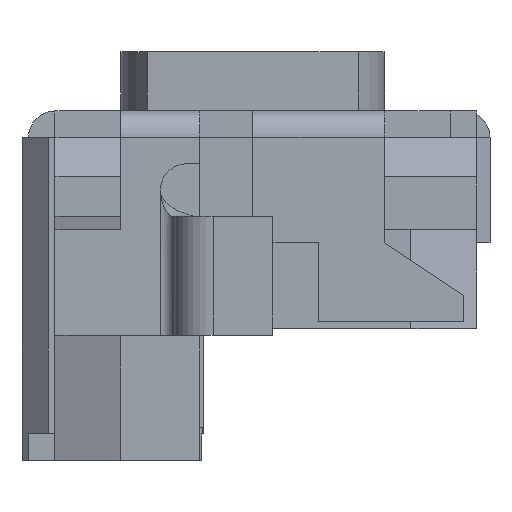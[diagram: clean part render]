
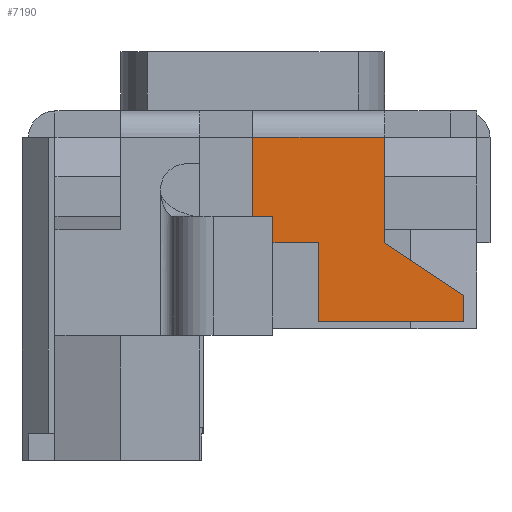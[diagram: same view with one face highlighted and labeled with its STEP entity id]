
A CAD part, left-side view. The second image highlights one B-rep face of the part: STEP entity #7190.
In plain terms, the highlighted planar face has unit normal (-1, 0, 0).
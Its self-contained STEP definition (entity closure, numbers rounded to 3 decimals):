
#4930=DIRECTION('',(0.,1.,0.));
#4931=VECTOR('',#4930,1.);
#4932=CARTESIAN_POINT('',(-2.4,-1.,-0.02));
#4933=LINE('',#4932,#4931);
#4948=DIRECTION('',(0.,0.,-1.));
#4949=VECTOR('',#4948,0.8);
#4950=CARTESIAN_POINT('',(-2.4,0.,-0.02));
#4951=LINE('',#4950,#4949);
#4952=DIRECTION('',(0.,0.,1.));
#4953=VECTOR('',#4952,0.8);
#4954=CARTESIAN_POINT('',(-2.4,-1.,-0.82));
#4955=LINE('',#4954,#4953);
#4956=DIRECTION('',(0.,0.832,0.555));
#4957=VECTOR('',#4956,0.721);
#4958=CARTESIAN_POINT('',(-2.4,-1.6,-1.22));
#4959=LINE('',#4958,#4957);
#4960=DIRECTION('',(0.,0.,1.));
#4961=VECTOR('',#4960,0.2);
#4962=CARTESIAN_POINT('',(-2.4,-1.6,-1.42));
#4963=LINE('',#4962,#4961);
#4964=DIRECTION('',(0.,-1.,0.));
#4965=VECTOR('',#4964,1.1);
#4966=CARTESIAN_POINT('',(-2.4,-0.5,-1.42));
#4967=LINE('',#4966,#4965);
#4968=DIRECTION('',(0.,0.,-1.));
#4969=VECTOR('',#4968,0.6);
#4970=CARTESIAN_POINT('',(-2.4,-0.5,-0.82));
#4971=LINE('',#4970,#4969);
#4972=DIRECTION('',(0.,-1.,0.));
#4973=VECTOR('',#4972,0.5);
#4974=CARTESIAN_POINT('',(-2.4,0.,-0.82));
#4975=LINE('',#4974,#4973);
#5500=CARTESIAN_POINT('',(-2.4,0.,-0.02));
#5501=CARTESIAN_POINT('',(-2.4,0.,-0.82));
#5502=VERTEX_POINT('',#5500);
#5503=VERTEX_POINT('',#5501);
#5504=CARTESIAN_POINT('',(-2.4,-0.5,-0.82));
#5505=VERTEX_POINT('',#5504);
#5506=CARTESIAN_POINT('',(-2.4,-1.,-0.82));
#5507=CARTESIAN_POINT('',(-2.4,-1.,-0.02));
#5508=VERTEX_POINT('',#5506);
#5509=VERTEX_POINT('',#5507);
#5516=CARTESIAN_POINT('',(-2.4,-0.5,-1.42));
#5517=VERTEX_POINT('',#5516);
#5518=CARTESIAN_POINT('',(-2.4,-1.6,-1.42));
#5519=VERTEX_POINT('',#5518);
#5520=CARTESIAN_POINT('',(-2.4,-1.6,-1.22));
#5521=VERTEX_POINT('',#5520);
#7168=CARTESIAN_POINT('',(-2.4,-0.238,0.18));
#7169=DIRECTION('',(-1.,0.,0.));
#7170=DIRECTION('',(0.,1.,0.));
#7171=AXIS2_PLACEMENT_3D('',#7168,#7169,#7170);
#7172=PLANE('',#7171);
#7174=ORIENTED_EDGE('',*,*,#7173,.F.);
#7175=ORIENTED_EDGE('',*,*,#7159,.F.);
#7177=ORIENTED_EDGE('',*,*,#7176,.F.);
#7179=ORIENTED_EDGE('',*,*,#7178,.F.);
#7181=ORIENTED_EDGE('',*,*,#7180,.F.);
#7183=ORIENTED_EDGE('',*,*,#7182,.F.);
#7185=ORIENTED_EDGE('',*,*,#7184,.F.);
#7187=ORIENTED_EDGE('',*,*,#7186,.F.);
#7188=EDGE_LOOP('',(#7174,#7175,#7177,#7179,#7181,#7183,#7185,#7187));
#7189=FACE_OUTER_BOUND('',#7188,.F.);
#7159=EDGE_CURVE('',#5509,#5502,#4933,.T.);
#7173=EDGE_CURVE('',#5502,#5503,#4951,.T.);
#7176=EDGE_CURVE('',#5508,#5509,#4955,.T.);
#7178=EDGE_CURVE('',#5521,#5508,#4959,.T.);
#7180=EDGE_CURVE('',#5519,#5521,#4963,.T.);
#7182=EDGE_CURVE('',#5517,#5519,#4967,.T.);
#7184=EDGE_CURVE('',#5505,#5517,#4971,.T.);
#7186=EDGE_CURVE('',#5503,#5505,#4975,.T.);
#7190=ADVANCED_FACE('',(#7189),#7172,.T.);
